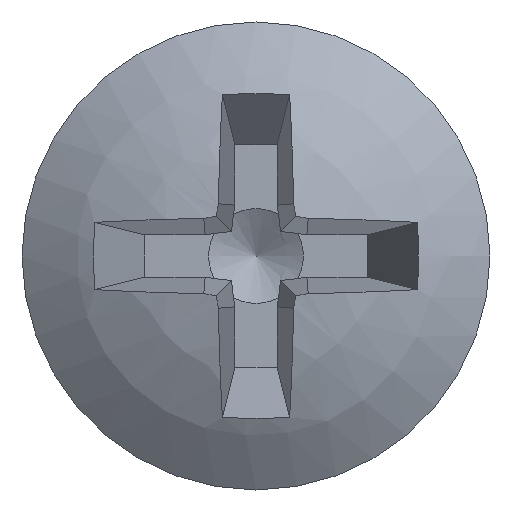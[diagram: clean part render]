
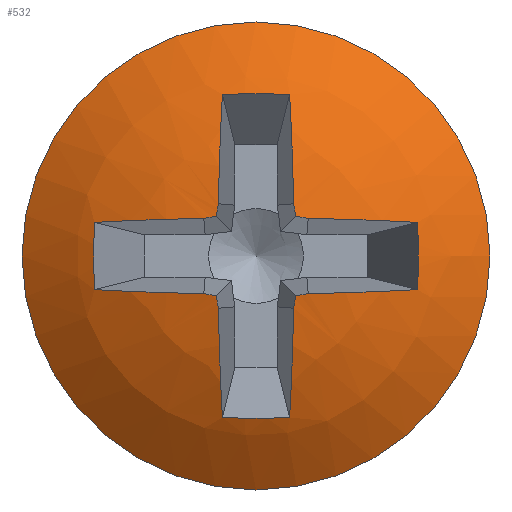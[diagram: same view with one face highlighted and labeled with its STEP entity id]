
A CAD part, left-side view. The second image highlights one B-rep face of the part: STEP entity #532.
In plain terms, the highlighted spherical face has radius 3.2 mm.
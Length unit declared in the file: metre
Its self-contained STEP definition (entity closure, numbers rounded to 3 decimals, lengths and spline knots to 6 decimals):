
#26=SPHERICAL_SURFACE('',#580,0.0032);
#30=CIRCLE('',#581,0.003199);
#31=CIRCLE('',#582,0.0032);
#32=CIRCLE('',#583,0.0032);
#33=CIRCLE('',#584,0.003199);
#34=CIRCLE('',#585,0.0032);
#35=CIRCLE('',#586,0.003199);
#36=CIRCLE('',#587,0.0032);
#37=CIRCLE('',#588,0.0032);
#38=CIRCLE('',#589,0.003199);
#39=CIRCLE('',#590,0.0032);
#40=CIRCLE('',#591,0.003199);
#41=CIRCLE('',#592,0.0032);
#42=CIRCLE('',#593,0.0032);
#43=CIRCLE('',#594,0.003199);
#44=CIRCLE('',#595,0.0032);
#45=CIRCLE('',#596,0.003199);
#46=CIRCLE('',#597,0.0032);
#47=CIRCLE('',#598,0.0032);
#48=CIRCLE('',#599,0.003199);
#49=CIRCLE('',#600,0.0032);
#50=CIRCLE('',#601,0.002);
#75=ORIENTED_EDGE('',*,*,#231,.F.);
#76=ORIENTED_EDGE('',*,*,#232,.T.);
#77=ORIENTED_EDGE('',*,*,#233,.T.);
#78=ORIENTED_EDGE('',*,*,#234,.T.);
#79=ORIENTED_EDGE('',*,*,#235,.F.);
#80=ORIENTED_EDGE('',*,*,#236,.F.);
#81=ORIENTED_EDGE('',*,*,#237,.T.);
#82=ORIENTED_EDGE('',*,*,#238,.T.);
#83=ORIENTED_EDGE('',*,*,#239,.F.);
#84=ORIENTED_EDGE('',*,*,#240,.T.);
#85=ORIENTED_EDGE('',*,*,#241,.T.);
#86=ORIENTED_EDGE('',*,*,#242,.T.);
#87=ORIENTED_EDGE('',*,*,#243,.T.);
#88=ORIENTED_EDGE('',*,*,#244,.F.);
#89=ORIENTED_EDGE('',*,*,#245,.T.);
#90=ORIENTED_EDGE('',*,*,#246,.T.);
#91=ORIENTED_EDGE('',*,*,#247,.T.);
#92=ORIENTED_EDGE('',*,*,#248,.T.);
#93=ORIENTED_EDGE('',*,*,#249,.T.);
#94=ORIENTED_EDGE('',*,*,#250,.F.);
#95=ORIENTED_EDGE('',*,*,#251,.F.);
#231=EDGE_CURVE('',#309,#310,#30,.T.);
#232=EDGE_CURVE('',#309,#311,#31,.F.);
#233=EDGE_CURVE('',#311,#312,#32,.F.);
#234=EDGE_CURVE('',#312,#313,#33,.F.);
#235=EDGE_CURVE('',#314,#313,#34,.T.);
#236=EDGE_CURVE('',#315,#314,#35,.T.);
#237=EDGE_CURVE('',#315,#316,#36,.F.);
#238=EDGE_CURVE('',#316,#317,#37,.F.);
#239=EDGE_CURVE('',#318,#317,#38,.T.);
#240=EDGE_CURVE('',#318,#319,#39,.F.);
#241=EDGE_CURVE('',#319,#320,#40,.F.);
#242=EDGE_CURVE('',#320,#321,#41,.F.);
#243=EDGE_CURVE('',#321,#322,#42,.F.);
#244=EDGE_CURVE('',#323,#322,#43,.T.);
#245=EDGE_CURVE('',#323,#324,#44,.F.);
#246=EDGE_CURVE('',#324,#325,#45,.F.);
#247=EDGE_CURVE('',#325,#326,#46,.F.);
#248=EDGE_CURVE('',#326,#327,#47,.F.);
#249=EDGE_CURVE('',#327,#328,#48,.F.);
#250=EDGE_CURVE('',#310,#328,#49,.T.);
#251=EDGE_CURVE('',#329,#329,#50,.T.);
#309=VERTEX_POINT('',#844);
#310=VERTEX_POINT('',#845);
#311=VERTEX_POINT('',#847);
#312=VERTEX_POINT('',#849);
#313=VERTEX_POINT('',#851);
#314=VERTEX_POINT('',#853);
#315=VERTEX_POINT('',#855);
#316=VERTEX_POINT('',#857);
#317=VERTEX_POINT('',#859);
#318=VERTEX_POINT('',#861);
#319=VERTEX_POINT('',#863);
#320=VERTEX_POINT('',#865);
#321=VERTEX_POINT('',#867);
#322=VERTEX_POINT('',#869);
#323=VERTEX_POINT('',#871);
#324=VERTEX_POINT('',#873);
#325=VERTEX_POINT('',#875);
#326=VERTEX_POINT('',#877);
#327=VERTEX_POINT('',#879);
#328=VERTEX_POINT('',#881);
#329=VERTEX_POINT('',#884);
#429=EDGE_LOOP('',(#75,#76,#77,#78,#79,#80,#81,#82,#83,#84,#85,#86,#87,
#88,#89,#90,#91,#92,#93,#94));
#430=EDGE_LOOP('',(#95));
#467=FACE_BOUND('',#429,.T.);
#468=FACE_BOUND('',#430,.T.);
#532=ADVANCED_FACE('',(#467,#468),#26,.T.);
#580=AXIS2_PLACEMENT_3D('',#842,#665,#666);
#581=AXIS2_PLACEMENT_3D('',#843,#667,#668);
#582=AXIS2_PLACEMENT_3D('',#846,#669,#670);
#583=AXIS2_PLACEMENT_3D('',#848,#671,#672);
#584=AXIS2_PLACEMENT_3D('',#850,#673,#674);
#585=AXIS2_PLACEMENT_3D('',#852,#675,#676);
#586=AXIS2_PLACEMENT_3D('',#854,#677,#678);
#587=AXIS2_PLACEMENT_3D('',#856,#679,#680);
#588=AXIS2_PLACEMENT_3D('',#858,#681,#682);
#589=AXIS2_PLACEMENT_3D('',#860,#683,#684);
#590=AXIS2_PLACEMENT_3D('',#862,#685,#686);
#591=AXIS2_PLACEMENT_3D('',#864,#687,#688);
#592=AXIS2_PLACEMENT_3D('',#866,#689,#690);
#593=AXIS2_PLACEMENT_3D('',#868,#691,#692);
#594=AXIS2_PLACEMENT_3D('',#870,#693,#694);
#595=AXIS2_PLACEMENT_3D('',#872,#695,#696);
#596=AXIS2_PLACEMENT_3D('',#874,#697,#698);
#597=AXIS2_PLACEMENT_3D('',#876,#699,#700);
#598=AXIS2_PLACEMENT_3D('',#878,#701,#702);
#599=AXIS2_PLACEMENT_3D('',#880,#703,#704);
#600=AXIS2_PLACEMENT_3D('',#882,#705,#706);
#601=AXIS2_PLACEMENT_3D('',#883,#707,#708);
#665=DIRECTION('',(1.,0.,0.));
#666=DIRECTION('',(0.,-1.,0.));
#667=DIRECTION('',(-0.122,0.,-0.993));
#668=DIRECTION('',(-0.993,0.,0.122));
#669=DIRECTION('',(-0.122,-0.16,-0.98));
#670=DIRECTION('',(0.,-0.987,0.161));
#671=DIRECTION('',(-0.122,-0.98,-0.16));
#672=DIRECTION('',(0.,-0.161,0.987));
#673=DIRECTION('',(-0.122,-0.993,0.));
#674=DIRECTION('',(-0.993,0.122,0.));
#675=DIRECTION('',(-0.443,0.,-0.896));
#676=DIRECTION('',(-0.896,0.,0.443));
#677=DIRECTION('',(-0.122,0.993,0.));
#678=DIRECTION('',(0.993,0.122,0.));
#679=DIRECTION('',(-0.122,0.98,-0.16));
#680=DIRECTION('',(0.,-0.161,-0.987));
#681=DIRECTION('',(-0.122,0.16,-0.98));
#682=DIRECTION('',(0.,-0.987,-0.161));
#683=DIRECTION('',(-0.122,0.,-0.993));
#684=DIRECTION('',(-0.993,0.,0.122));
#685=DIRECTION('',(-0.443,0.896,0.));
#686=DIRECTION('',(0.896,0.443,0.));
#687=DIRECTION('',(-0.122,0.,0.993));
#688=DIRECTION('',(0.993,0.,0.122));
#689=DIRECTION('',(-0.122,0.16,0.98));
#690=DIRECTION('',(0.,0.987,-0.161));
#691=DIRECTION('',(-0.122,0.98,0.16));
#692=DIRECTION('',(0.,0.161,-0.987));
#693=DIRECTION('',(-0.122,0.993,0.));
#694=DIRECTION('',(0.993,0.122,0.));
#695=DIRECTION('',(-0.443,0.,0.896));
#696=DIRECTION('',(0.896,0.,0.443));
#697=DIRECTION('',(-0.122,-0.993,0.));
#698=DIRECTION('',(-0.993,0.122,0.));
#699=DIRECTION('',(-0.122,-0.98,0.16));
#700=DIRECTION('',(0.,0.161,0.987));
#701=DIRECTION('',(-0.122,-0.16,0.98));
#702=DIRECTION('',(0.,0.987,0.161));
#703=DIRECTION('',(-0.122,0.,0.993));
#704=DIRECTION('',(0.993,0.,0.122));
#705=DIRECTION('',(-0.443,-0.896,0.));
#706=DIRECTION('',(-0.896,0.443,0.));
#707=DIRECTION('',(1.,0.,0.));
#708=DIRECTION('',(0.,-1.,0.));
#842=CARTESIAN_POINT('',(-0.059027,0.046761,0.185917));
#843=CARTESIAN_POINT('',(-0.059035,0.046761,0.185853));
#844=CARTESIAN_POINT('',(-0.062179,0.047207,0.186239));
#845=CARTESIAN_POINT('',(-0.061899,0.048142,0.186204));
#846=CARTESIAN_POINT('',(-0.059027,0.046761,0.185919));
#847=CARTESIAN_POINT('',(-0.062191,0.047101,0.186257));
#848=CARTESIAN_POINT('',(-0.059027,0.046763,0.185917));
#849=CARTESIAN_POINT('',(-0.062179,0.047082,0.186363));
#850=CARTESIAN_POINT('',(-0.059035,0.046696,0.185917));
#851=CARTESIAN_POINT('',(-0.061899,0.047048,0.187298));
#852=CARTESIAN_POINT('',(-0.059042,0.046761,0.185886));
#853=CARTESIAN_POINT('',(-0.061899,0.046474,0.187298));
#854=CARTESIAN_POINT('',(-0.059035,0.046826,0.185917));
#855=CARTESIAN_POINT('',(-0.062179,0.046439,0.186363));
#856=CARTESIAN_POINT('',(-0.059027,0.046759,0.185917));
#857=CARTESIAN_POINT('',(-0.062191,0.046421,0.186257));
#858=CARTESIAN_POINT('',(-0.059027,0.046761,0.185919));
#859=CARTESIAN_POINT('',(-0.062179,0.046315,0.186239));
#860=CARTESIAN_POINT('',(-0.059035,0.046761,0.185853));
#861=CARTESIAN_POINT('',(-0.061899,0.04538,0.186204));
#862=CARTESIAN_POINT('',(-0.059042,0.046792,0.185917));
#863=CARTESIAN_POINT('',(-0.061899,0.04538,0.18563));
#864=CARTESIAN_POINT('',(-0.059035,0.046761,0.185982));
#865=CARTESIAN_POINT('',(-0.062179,0.046315,0.185596));
#866=CARTESIAN_POINT('',(-0.059027,0.046761,0.185915));
#867=CARTESIAN_POINT('',(-0.062191,0.046421,0.185577));
#868=CARTESIAN_POINT('',(-0.059027,0.046759,0.185917));
#869=CARTESIAN_POINT('',(-0.062179,0.046439,0.185471));
#870=CARTESIAN_POINT('',(-0.059035,0.046826,0.185917));
#871=CARTESIAN_POINT('',(-0.061899,0.046474,0.184536));
#872=CARTESIAN_POINT('',(-0.059042,0.046761,0.185948));
#873=CARTESIAN_POINT('',(-0.061899,0.047048,0.184536));
#874=CARTESIAN_POINT('',(-0.059035,0.046696,0.185917));
#875=CARTESIAN_POINT('',(-0.062179,0.047082,0.185471));
#876=CARTESIAN_POINT('',(-0.059027,0.046763,0.185917));
#877=CARTESIAN_POINT('',(-0.062191,0.047101,0.185577));
#878=CARTESIAN_POINT('',(-0.059027,0.046761,0.185915));
#879=CARTESIAN_POINT('',(-0.062179,0.047207,0.185596));
#880=CARTESIAN_POINT('',(-0.059035,0.046761,0.185982));
#881=CARTESIAN_POINT('',(-0.061899,0.048142,0.18563));
#882=CARTESIAN_POINT('',(-0.059042,0.04673,0.185917));
#883=CARTESIAN_POINT('',(-0.061525,0.046761,0.185917));
#884=CARTESIAN_POINT('',(-0.061525,0.044761,0.185917));
